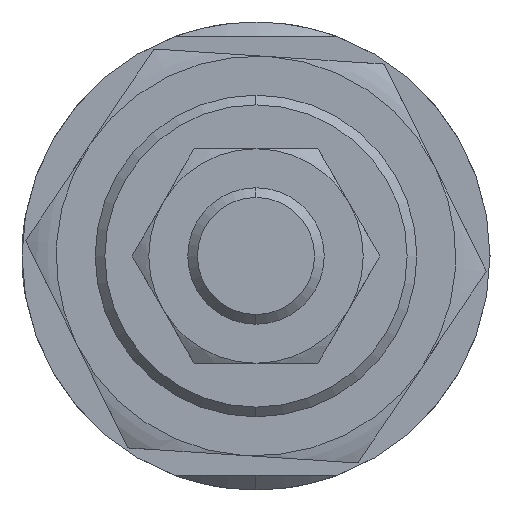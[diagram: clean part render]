
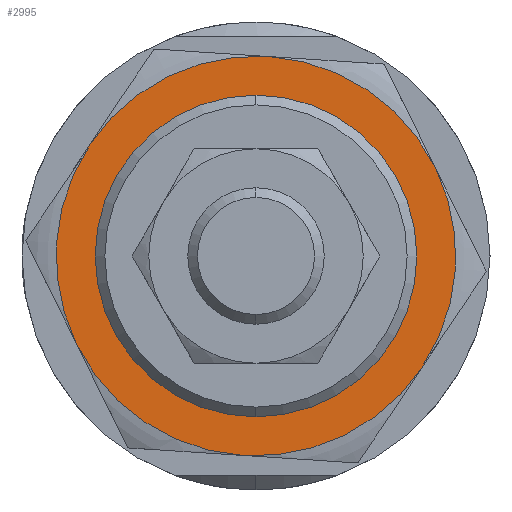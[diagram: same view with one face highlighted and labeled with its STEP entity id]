
A CAD part, left-side view. The second image highlights one B-rep face of the part: STEP entity #2995.
In plain terms, the highlighted planar face has unit normal (-1, 0, 0) as drawn and (0, 0, -1) by its records, which use the part's own axes.
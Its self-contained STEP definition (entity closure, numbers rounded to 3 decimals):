
#6 = VERTEX_POINT ( 'NONE', #2119 ) ;
#13 = ORIENTED_EDGE ( 'NONE', *, *, #713, .F. ) ;
#189 = CARTESIAN_POINT ( 'NONE',  ( 0., 0., -5.5 ) ) ;
#263 = CARTESIAN_POINT ( 'NONE',  ( 0., 0., -5.5 ) ) ;
#275 = DIRECTION ( 'NONE',  ( 0., 0., 1. ) ) ;
#331 = VERTEX_POINT ( 'NONE', #1959 ) ;
#347 = ORIENTED_EDGE ( 'NONE', *, *, #2413, .F. ) ;
#352 = CARTESIAN_POINT ( 'NONE',  ( -20.5, 0., -5.5 ) ) ;
#405 = CIRCLE ( 'NONE', #2273, 20.5 ) ;
#445 = CIRCLE ( 'NONE', #743, 20.5 ) ;
#458 = VERTEX_POINT ( 'NONE', #352 ) ;
#597 = CIRCLE ( 'NONE', #1505, 20.5 ) ;
#609 = AXIS2_PLACEMENT_3D ( 'NONE', #671, #1428, #2695 ) ;
#636 = CARTESIAN_POINT ( 'NONE',  ( 0., 0., -5.5 ) ) ;
#671 = CARTESIAN_POINT ( 'NONE',  ( 0., 0., -5.5 ) ) ;
#713 = EDGE_CURVE ( 'NONE', #1058, #1576, #445, .T. ) ;
#743 = AXIS2_PLACEMENT_3D ( 'NONE', #263, #275, #1344 ) ;
#769 = DIRECTION ( 'NONE',  ( 1., 0., 0. ) ) ;
#827 = EDGE_LOOP ( 'NONE', ( #1802, #2449, #13, #2402, #3012, #347 ) ) ;
#867 = ORIENTED_EDGE ( 'NONE', *, *, #1475, .T. ) ;
#892 = ORIENTED_EDGE ( 'NONE', *, *, #1789, .T. ) ;
#943 = DIRECTION ( 'NONE',  ( 1., 0., 0. ) ) ;
#967 = DIRECTION ( 'NONE',  ( 1., 0., 0. ) ) ;
#1005 = DIRECTION ( 'NONE',  ( 0., 0., 1. ) ) ;
#1058 = VERTEX_POINT ( 'NONE', #3110 ) ;
#1102 = CIRCLE ( 'NONE', #2739, 20.5 ) ;
#1122 = DIRECTION ( 'NONE',  ( 1., 0., 0. ) ) ;
#1140 = AXIS2_PLACEMENT_3D ( 'NONE', #2533, #3296, #1785 ) ;
#1230 = VERTEX_POINT ( 'NONE', #1715 ) ;
#1283 = EDGE_CURVE ( 'NONE', #1576, #6, #3237, .T. ) ;
#1344 = DIRECTION ( 'NONE',  ( 1., 0., 0. ) ) ;
#1416 = CIRCLE ( 'NONE', #1621, 15.5 ) ;
#1428 = DIRECTION ( 'NONE',  ( 0., 0., 1. ) ) ;
#1451 = CARTESIAN_POINT ( 'NONE',  ( 0., 0., -5.5 ) ) ;
#1471 = VERTEX_POINT ( 'NONE', #2513 ) ;
#1475 = EDGE_CURVE ( 'NONE', #2643, #331, #1416, .T. ) ;
#1504 = CARTESIAN_POINT ( 'NONE',  ( 0., 0., -5.5 ) ) ;
#1505 = AXIS2_PLACEMENT_3D ( 'NONE', #1650, #1915, #2159 ) ;
#1566 = FACE_BOUND ( 'NONE', #2333, .T. ) ;
#1576 = VERTEX_POINT ( 'NONE', #3067 ) ;
#1621 = AXIS2_PLACEMENT_3D ( 'NONE', #1504, #3297, #1766 ) ;
#1650 = CARTESIAN_POINT ( 'NONE',  ( 0., 0., -5.5 ) ) ;
#1715 = CARTESIAN_POINT ( 'NONE',  ( -10.25, 17.754, -5.5 ) ) ;
#1766 = DIRECTION ( 'NONE',  ( 1., 0., 0. ) ) ;
#1785 = DIRECTION ( 'NONE',  ( 1., 0., 0. ) ) ;
#1789 = EDGE_CURVE ( 'NONE', #331, #2643, #1937, .T. ) ;
#1802 = ORIENTED_EDGE ( 'NONE', *, *, #2899, .F. ) ;
#1915 = DIRECTION ( 'NONE',  ( 0., 0., 1. ) ) ;
#1937 = CIRCLE ( 'NONE', #609, 15.5 ) ;
#1959 = CARTESIAN_POINT ( 'NONE',  ( 15.5, 0., -5.5 ) ) ;
#2009 = AXIS2_PLACEMENT_3D ( 'NONE', #636, #2178, #1122 ) ;
#2011 = CARTESIAN_POINT ( 'NONE',  ( 0., 0., -5.5 ) ) ;
#2050 = FACE_OUTER_BOUND ( 'NONE', #827, .T. ) ;
#2119 = CARTESIAN_POINT ( 'NONE',  ( 20.5, 0., -5.5 ) ) ;
#2159 = DIRECTION ( 'NONE',  ( 1., 0., 0. ) ) ;
#2178 = DIRECTION ( 'NONE',  ( 0., 0., 1. ) ) ;
#2218 = DIRECTION ( 'NONE',  ( 0., 0., 1. ) ) ;
#2273 = AXIS2_PLACEMENT_3D ( 'NONE', #1451, #2460, #967 ) ;
#2333 = EDGE_LOOP ( 'NONE', ( #892, #867 ) ) ;
#2402 = ORIENTED_EDGE ( 'NONE', *, *, #2790, .F. ) ;
#2413 = EDGE_CURVE ( 'NONE', #1471, #1230, #405, .T. ) ;
#2449 = ORIENTED_EDGE ( 'NONE', *, *, #1283, .F. ) ;
#2456 = EDGE_CURVE ( 'NONE', #1230, #458, #2905, .T. ) ;
#2460 = DIRECTION ( 'NONE',  ( 0., 0., 1. ) ) ;
#2513 = CARTESIAN_POINT ( 'NONE',  ( 10.25, 17.754, -5.5 ) ) ;
#2520 = PLANE ( 'NONE',  #3260 ) ;
#2533 = CARTESIAN_POINT ( 'NONE',  ( 0., 0., -5.5 ) ) ;
#2627 = CARTESIAN_POINT ( 'NONE',  ( -15.5, 0., -5.5 ) ) ;
#2643 = VERTEX_POINT ( 'NONE', #2627 ) ;
#2695 = DIRECTION ( 'NONE',  ( 1., 0., 0. ) ) ;
#2739 = AXIS2_PLACEMENT_3D ( 'NONE', #189, #2218, #943 ) ;
#2790 = EDGE_CURVE ( 'NONE', #458, #1058, #597, .T. ) ;
#2899 = EDGE_CURVE ( 'NONE', #6, #1471, #1102, .T. ) ;
#2905 = CIRCLE ( 'NONE', #1140, 20.5 ) ;
#2995 = ADVANCED_FACE ( 'NONE', ( #1566, #2050 ), #2520, .F. ) ;
#3012 = ORIENTED_EDGE ( 'NONE', *, *, #2456, .F. ) ;
#3067 = CARTESIAN_POINT ( 'NONE',  ( 10.25, -17.754, -5.5 ) ) ;
#3110 = CARTESIAN_POINT ( 'NONE',  ( -10.25, -17.754, -5.5 ) ) ;
#3237 = CIRCLE ( 'NONE', #2009, 20.5 ) ;
#3260 = AXIS2_PLACEMENT_3D ( 'NONE', #2011, #1005, #769 ) ;
#3296 = DIRECTION ( 'NONE',  ( 0., 0., 1. ) ) ;
#3297 = DIRECTION ( 'NONE',  ( 0., 0., 1. ) ) ;
